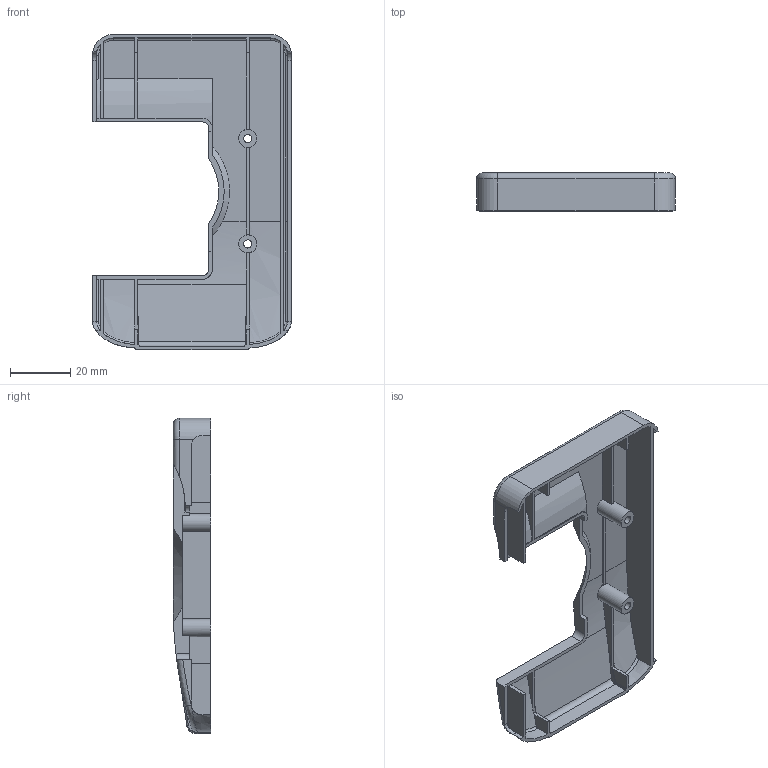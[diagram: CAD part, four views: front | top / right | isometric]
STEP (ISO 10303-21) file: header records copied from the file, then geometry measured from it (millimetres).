
FILE_DESCRIPTION((''),'2;1');
FILE_NAME('DARWIN-OP2_CVR_FOOT_R_PRT','2016-08-12T',('kimdolyang'),(''),'PRO/ENGINEER BY PARAMETRIC TECHNOLOGY CORPORATION, 2013410','PRO/ENGINEER BY PARAMETRIC TECHNOLOGY CORPORATION, 2013410','');
FILE_SCHEMA(('AUTOMOTIVE_DESIGN { 1 0 10303 214 1 1 1 1 }'));
Length unit declared in the file: millimetre
Products named in the file (1): DARWIN-OP2_CVR_FOOT_R_PRT
Bounding box: 66 x 12.5 x 104.7 mm (x, y, z)
Volume: 10432.8 mm3; surface area: 18223 mm2
Topology: 1 solids, 1 shells, 170 faces, 482 edges, 316 vertices
Faces by surface type: plane 84, cylinder 56, torus 14, bspline 8, extrusion 6, sphere 2
Entity records: 8102 total; most frequent: CARTESIAN_POINT 2137, ORIENTED_EDGE 964, DIRECTION 850, PRESENTATION_STYLE_ASSIGNMENT 483, STYLED_ITEM 483, CURVE_STYLE 482, EDGE_CURVE 482, VERTEX_POINT 316
